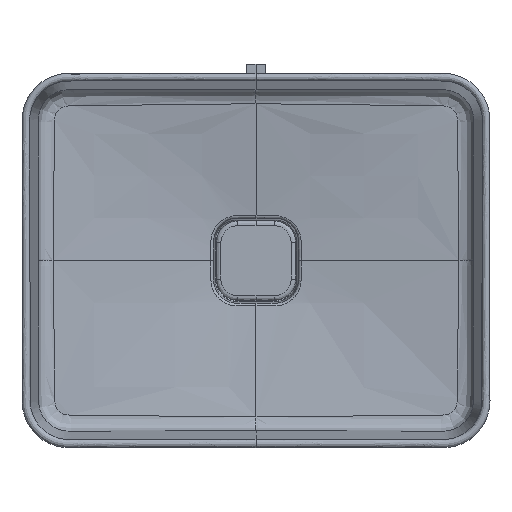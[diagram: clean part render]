
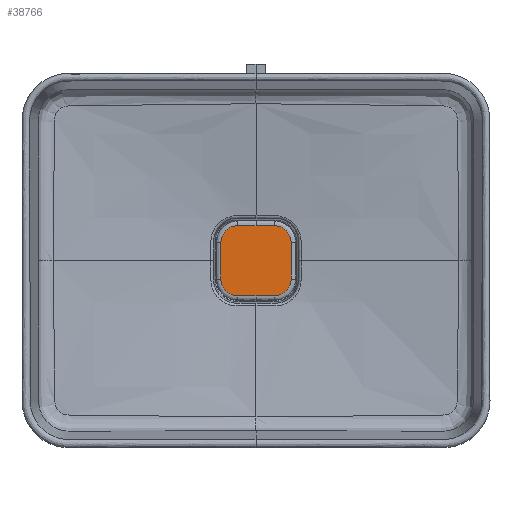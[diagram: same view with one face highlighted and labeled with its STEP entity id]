
A CAD part, top view. The second image highlights one B-rep face of the part: STEP entity #38766.
In plain terms, the highlighted planar face has unit normal (0, 0, 1).
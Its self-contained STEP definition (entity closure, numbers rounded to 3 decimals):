
#38390=DIRECTION('',(1.,0.,0.));
#38391=VECTOR('',#38390,19.552);
#38392=CARTESIAN_POINT('',(0.,-237.508,742.5));
#38393=LINE('',#38392,#38391);
#38394=DIRECTION('',(-1.,0.,0.));
#38395=VECTOR('',#38394,19.552);
#38396=CARTESIAN_POINT('',(0.,-237.508,742.5));
#38397=LINE('',#38396,#38395);
#38398=CARTESIAN_POINT('',(-19.552,-237.508,
742.5));
#38399=CARTESIAN_POINT('',(-21.146,-237.51,
742.5));
#38400=CARTESIAN_POINT('',(-24.219,-237.102,
742.5));
#38401=CARTESIAN_POINT('',(-28.65,-235.284,
742.5));
#38402=CARTESIAN_POINT('',(-32.398,-232.397,
742.5));
#38403=CARTESIAN_POINT('',(-35.284,-228.649,
742.5));
#38404=CARTESIAN_POINT('',(-37.102,-224.218,
742.5));
#38405=CARTESIAN_POINT('',(-37.51,-221.146,
742.5));
#38406=CARTESIAN_POINT('',(-37.508,-219.552,
742.5));
#38408=DIRECTION('',(0.,1.,0.));
#38409=VECTOR('',#38408,39.104);
#38410=CARTESIAN_POINT('',(-37.508,-219.552,
742.5));
#38411=LINE('',#38410,#38409);
#38412=CARTESIAN_POINT('',(-37.508,-180.448,
742.5));
#38413=CARTESIAN_POINT('',(-37.51,-178.854,
742.5));
#38414=CARTESIAN_POINT('',(-37.102,-175.781,
742.5));
#38415=CARTESIAN_POINT('',(-35.284,-171.35,
742.5));
#38416=CARTESIAN_POINT('',(-32.397,-167.602,
742.5));
#38417=CARTESIAN_POINT('',(-28.649,-164.716,
742.5));
#38418=CARTESIAN_POINT('',(-24.218,-162.898,
742.5));
#38419=CARTESIAN_POINT('',(-21.146,-162.49,
742.5));
#38420=CARTESIAN_POINT('',(-19.552,-162.492,
742.5));
#38422=DIRECTION('',(1.,0.,0.));
#38423=VECTOR('',#38422,19.552);
#38424=CARTESIAN_POINT('',(-19.552,-162.492,
742.5));
#38425=LINE('',#38424,#38423);
#38426=DIRECTION('',(-1.,0.,0.));
#38427=VECTOR('',#38426,19.552);
#38428=CARTESIAN_POINT('',(19.552,-162.492,
742.5));
#38429=LINE('',#38428,#38427);
#38430=CARTESIAN_POINT('',(37.508,-180.448,
742.5));
#38431=CARTESIAN_POINT('',(37.51,-178.854,
742.5));
#38432=CARTESIAN_POINT('',(37.102,-175.781,
742.5));
#38433=CARTESIAN_POINT('',(35.284,-171.35,
742.5));
#38434=CARTESIAN_POINT('',(32.397,-167.602,
742.5));
#38435=CARTESIAN_POINT('',(28.649,-164.716,
742.5));
#38436=CARTESIAN_POINT('',(24.218,-162.898,
742.5));
#38437=CARTESIAN_POINT('',(21.146,-162.49,
742.5));
#38438=CARTESIAN_POINT('',(19.552,-162.492,
742.5));
#38440=DIRECTION('',(0.,1.,0.));
#38441=VECTOR('',#38440,39.104);
#38442=CARTESIAN_POINT('',(37.508,-219.552,
742.5));
#38443=LINE('',#38442,#38441);
#38444=CARTESIAN_POINT('',(19.552,-237.508,
742.5));
#38445=CARTESIAN_POINT('',(21.146,-237.51,
742.5));
#38446=CARTESIAN_POINT('',(24.219,-237.102,
742.5));
#38447=CARTESIAN_POINT('',(28.65,-235.284,
742.5));
#38448=CARTESIAN_POINT('',(32.398,-232.397,
742.5));
#38449=CARTESIAN_POINT('',(35.284,-228.649,
742.5));
#38450=CARTESIAN_POINT('',(37.102,-224.218,
742.5));
#38451=CARTESIAN_POINT('',(37.51,-221.146,
742.5));
#38452=CARTESIAN_POINT('',(37.508,-219.552,
742.5));
#38454=CARTESIAN_POINT('',(0.,-237.508,742.5));
#38512=CARTESIAN_POINT('',(0.,-162.492,742.5));
#38676=VERTEX_POINT('',#38444);
#38677=VERTEX_POINT('',#38452);
#38680=CARTESIAN_POINT('',(37.508,-180.448,
742.5));
#38681=VERTEX_POINT('',#38680);
#38684=VERTEX_POINT('',#38438);
#38694=VERTEX_POINT('',#38398);
#38695=VERTEX_POINT('',#38406);
#38698=CARTESIAN_POINT('',(-37.508,-180.448,
742.5));
#38699=VERTEX_POINT('',#38698);
#38702=VERTEX_POINT('',#38420);
#38713=VERTEX_POINT('',#38512);
#38714=VERTEX_POINT('',#38454);
#38740=CARTESIAN_POINT('',(0.,5.,742.5));
#38741=DIRECTION('',(0.,0.,1.));
#38742=DIRECTION('',(0.,1.,0.));
#38743=AXIS2_PLACEMENT_3D('',#38740,#38741,#38742);
#38744=PLANE('',#38743);
#38746=ORIENTED_EDGE('',*,*,#38745,.F.);
#38748=ORIENTED_EDGE('',*,*,#38747,.T.);
#38750=ORIENTED_EDGE('',*,*,#38749,.T.);
#38752=ORIENTED_EDGE('',*,*,#38751,.T.);
#38754=ORIENTED_EDGE('',*,*,#38753,.T.);
#38756=ORIENTED_EDGE('',*,*,#38755,.T.);
#38758=ORIENTED_EDGE('',*,*,#38757,.F.);
#38760=ORIENTED_EDGE('',*,*,#38759,.F.);
#38761=ORIENTED_EDGE('',*,*,#38729,.F.);
#38763=ORIENTED_EDGE('',*,*,#38762,.F.);
#38764=EDGE_LOOP('',(#38746,#38748,#38750,#38752,#38754,#38756,#38758,#38760,
#38761,#38763));
#38765=FACE_OUTER_BOUND('',#38764,.F.);
#38766=ADVANCED_FACE('',(#38765),#38744,.T.);
#38407=B_SPLINE_CURVE_WITH_KNOTS('',3,(#38398,#38399,#38400,#38401,#38402,
#38403,#38404,#38405,#38406),.UNSPECIFIED.,.F.,.F.,(4,1,1,1,1,1,4),(0.,
0.167,0.333,0.5,0.667,0.833,
1.),.UNSPECIFIED.);
#38421=B_SPLINE_CURVE_WITH_KNOTS('',3,(#38412,#38413,#38414,#38415,#38416,
#38417,#38418,#38419,#38420),.UNSPECIFIED.,.F.,.F.,(4,1,1,1,1,1,4),(0.,
0.167,0.333,0.5,0.667,0.833,
1.),.UNSPECIFIED.);
#38439=B_SPLINE_CURVE_WITH_KNOTS('',3,(#38430,#38431,#38432,#38433,#38434,
#38435,#38436,#38437,#38438),.UNSPECIFIED.,.F.,.F.,(4,1,1,1,1,1,4),(0.,
0.167,0.333,0.5,0.667,0.833,
1.),.UNSPECIFIED.);
#38453=B_SPLINE_CURVE_WITH_KNOTS('',3,(#38444,#38445,#38446,#38447,#38448,
#38449,#38450,#38451,#38452),.UNSPECIFIED.,.F.,.F.,(4,1,1,1,1,1,4),(0.,
0.167,0.333,0.5,0.667,0.833,
1.),.UNSPECIFIED.);
#38729=EDGE_CURVE('',#38677,#38681,#38443,.T.);
#38745=EDGE_CURVE('',#38714,#38676,#38393,.T.);
#38747=EDGE_CURVE('',#38714,#38694,#38397,.T.);
#38749=EDGE_CURVE('',#38694,#38695,#38407,.T.);
#38751=EDGE_CURVE('',#38695,#38699,#38411,.T.);
#38753=EDGE_CURVE('',#38699,#38702,#38421,.T.);
#38755=EDGE_CURVE('',#38702,#38713,#38425,.T.);
#38757=EDGE_CURVE('',#38684,#38713,#38429,.T.);
#38759=EDGE_CURVE('',#38681,#38684,#38439,.T.);
#38762=EDGE_CURVE('',#38676,#38677,#38453,.T.);
